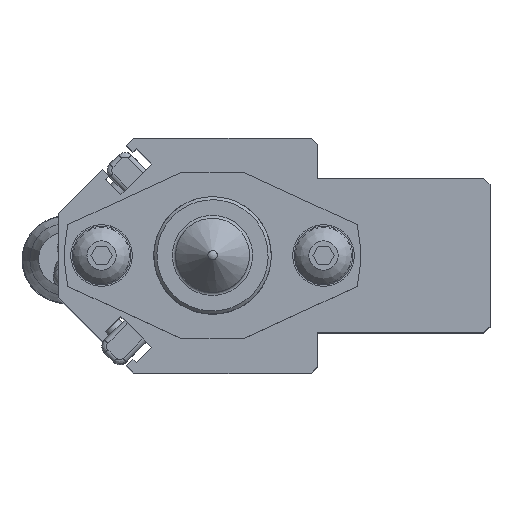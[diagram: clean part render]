
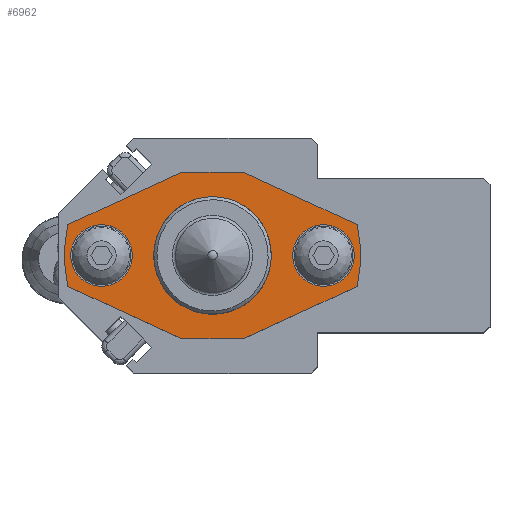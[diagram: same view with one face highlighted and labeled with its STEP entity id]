
A CAD part, top view. The second image highlights one B-rep face of the part: STEP entity #6962.
In plain terms, the highlighted planar face has unit normal (0, 0, 1).
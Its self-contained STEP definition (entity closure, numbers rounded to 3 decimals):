
#369=FACE_BOUND('',#1070,.T.);
#370=FACE_BOUND('',#1071,.T.);
#371=FACE_BOUND('',#1072,.T.);
#451=PLANE('',#7732);
#670=FACE_OUTER_BOUND('',#1069,.T.);
#1069=EDGE_LOOP('',(#4876,#4877,#4878,#4879,#4880,#4881,#4882,#4883));
#1070=EDGE_LOOP('',(#4884,#4885));
#1071=EDGE_LOOP('',(#4886,#4887));
#1072=EDGE_LOOP('',(#4888,#4889));
#1534=LINE('',#10825,#2099);
#1541=LINE('',#10844,#2106);
#1542=LINE('',#10847,#2107);
#1543=LINE('',#10848,#2108);
#1544=LINE('',#10850,#2109);
#1545=LINE('',#10851,#2110);
#2099=VECTOR('',#8614,10.);
#2106=VECTOR('',#8631,10.);
#2107=VECTOR('',#8634,10.);
#2108=VECTOR('',#8635,10.);
#2109=VECTOR('',#8636,10.);
#2110=VECTOR('',#8637,10.);
#2653=CIRCLE('',#7722,24.);
#2655=CIRCLE('',#7725,24.);
#2659=CIRCLE('',#7733,5.);
#2660=CIRCLE('',#7734,5.);
#2661=CIRCLE('',#7735,5.);
#2662=CIRCLE('',#7736,5.);
#2663=CIRCLE('',#7737,9.55);
#2664=CIRCLE('',#7738,9.55);
#3074=VERTEX_POINT('',#10806);
#3075=VERTEX_POINT('',#10808);
#3078=VERTEX_POINT('',#10815);
#3079=VERTEX_POINT('',#10817);
#3081=VERTEX_POINT('',#10823);
#3088=VERTEX_POINT('',#10842);
#3089=VERTEX_POINT('',#10846);
#3090=VERTEX_POINT('',#10849);
#3091=VERTEX_POINT('',#10852);
#3092=VERTEX_POINT('',#10853);
#3093=VERTEX_POINT('',#10856);
#3094=VERTEX_POINT('',#10857);
#3095=VERTEX_POINT('',#10860);
#3096=VERTEX_POINT('',#10861);
#3781=EDGE_CURVE('',#3075,#3074,#2653,.T.);
#3785=EDGE_CURVE('',#3079,#3078,#2655,.T.);
#3789=EDGE_CURVE('',#3074,#3081,#1534,.T.);
#3799=EDGE_CURVE('',#3078,#3088,#1541,.T.);
#3800=EDGE_CURVE('',#3081,#3089,#1542,.T.);
#3801=EDGE_CURVE('',#3089,#3079,#1543,.T.);
#3802=EDGE_CURVE('',#3088,#3090,#1544,.T.);
#3803=EDGE_CURVE('',#3090,#3075,#1545,.T.);
#3804=EDGE_CURVE('',#3091,#3092,#2659,.T.);
#3805=EDGE_CURVE('',#3092,#3091,#2660,.T.);
#3806=EDGE_CURVE('',#3093,#3094,#2661,.T.);
#3807=EDGE_CURVE('',#3094,#3093,#2662,.T.);
#3808=EDGE_CURVE('',#3095,#3096,#2663,.T.);
#3809=EDGE_CURVE('',#3096,#3095,#2664,.T.);
#4876=ORIENTED_EDGE('',*,*,#3781,.T.);
#4877=ORIENTED_EDGE('',*,*,#3789,.T.);
#4878=ORIENTED_EDGE('',*,*,#3800,.T.);
#4879=ORIENTED_EDGE('',*,*,#3801,.T.);
#4880=ORIENTED_EDGE('',*,*,#3785,.T.);
#4881=ORIENTED_EDGE('',*,*,#3799,.T.);
#4882=ORIENTED_EDGE('',*,*,#3802,.T.);
#4883=ORIENTED_EDGE('',*,*,#3803,.T.);
#4884=ORIENTED_EDGE('',*,*,#3804,.T.);
#4885=ORIENTED_EDGE('',*,*,#3805,.T.);
#4886=ORIENTED_EDGE('',*,*,#3806,.T.);
#4887=ORIENTED_EDGE('',*,*,#3807,.T.);
#4888=ORIENTED_EDGE('',*,*,#3808,.T.);
#4889=ORIENTED_EDGE('',*,*,#3809,.T.);
#6962=ADVANCED_FACE('',(#670,#369,#370,#371),#451,.T.);
#7722=AXIS2_PLACEMENT_3D('',#10809,#8599,#8600);
#7725=AXIS2_PLACEMENT_3D('',#10818,#8607,#8608);
#7732=AXIS2_PLACEMENT_3D('',#10845,#8632,#8633);
#7733=AXIS2_PLACEMENT_3D('',#10854,#8638,#8639);
#7734=AXIS2_PLACEMENT_3D('',#10855,#8640,#8641);
#7735=AXIS2_PLACEMENT_3D('',#10858,#8642,#8643);
#7736=AXIS2_PLACEMENT_3D('',#10859,#8644,#8645);
#7737=AXIS2_PLACEMENT_3D('',#10862,#8646,#8647);
#7738=AXIS2_PLACEMENT_3D('',#10863,#8648,#8649);
#8599=DIRECTION('center_axis',(0.,0.,1.));
#8600=DIRECTION('ref_axis',(0.978,-0.208,0.));
#8607=DIRECTION('center_axis',(0.,0.,1.));
#8608=DIRECTION('ref_axis',(-0.978,0.208,0.));
#8614=DIRECTION('',(0.908,-0.418,0.));
#8631=DIRECTION('',(-0.908,0.418,0.));
#8632=DIRECTION('center_axis',(0.,0.,1.));
#8633=DIRECTION('ref_axis',(1.,0.,0.));
#8634=DIRECTION('',(1.,0.,0.));
#8635=DIRECTION('',(0.908,0.418,0.));
#8636=DIRECTION('',(-1.,0.,0.));
#8637=DIRECTION('',(-0.908,-0.418,0.));
#8638=DIRECTION('center_axis',(0.,0.,-1.));
#8639=DIRECTION('ref_axis',(1.,0.,0.));
#8640=DIRECTION('center_axis',(0.,0.,-1.));
#8641=DIRECTION('ref_axis',(1.,0.,0.));
#8642=DIRECTION('center_axis',(0.,0.,-1.));
#8643=DIRECTION('ref_axis',(1.,0.,0.));
#8644=DIRECTION('center_axis',(0.,0.,-1.));
#8645=DIRECTION('ref_axis',(1.,0.,0.));
#8646=DIRECTION('center_axis',(0.,0.,-1.));
#8647=DIRECTION('ref_axis',(1.,0.,0.));
#8648=DIRECTION('center_axis',(0.,0.,-1.));
#8649=DIRECTION('ref_axis',(1.,0.,0.));
#10806=CARTESIAN_POINT('',(-23.473,-5.001,6.));
#10808=CARTESIAN_POINT('',(-23.473,5.001,6.));
#10809=CARTESIAN_POINT('Origin',(0.,0.,6.));
#10815=CARTESIAN_POINT('',(23.473,5.001,6.));
#10817=CARTESIAN_POINT('',(23.473,-5.001,6.));
#10818=CARTESIAN_POINT('Origin',(0.,0.,6.));
#10823=CARTESIAN_POINT('',(-5.,-13.5,6.));
#10825=CARTESIAN_POINT('',(-15.7,-8.578,6.));
#10842=CARTESIAN_POINT('',(5.,13.5,6.));
#10844=CARTESIAN_POINT('',(15.7,8.578,6.));
#10845=CARTESIAN_POINT('Origin',(0.,0.,6.));
#10846=CARTESIAN_POINT('',(5.,-13.5,6.));
#10847=CARTESIAN_POINT('',(25.4,-13.5,6.));
#10848=CARTESIAN_POINT('',(15.7,-8.578,6.));
#10849=CARTESIAN_POINT('',(-5.,13.5,6.));
#10850=CARTESIAN_POINT('',(-25.4,13.5,6.));
#10851=CARTESIAN_POINT('',(-15.7,8.578,6.));
#10852=CARTESIAN_POINT('',(-13.,0.,6.));
#10853=CARTESIAN_POINT('',(-23.,0.,6.));
#10854=CARTESIAN_POINT('Origin',(-18.,0.,6.));
#10855=CARTESIAN_POINT('Origin',(-18.,0.,6.));
#10856=CARTESIAN_POINT('',(23.,0.,6.));
#10857=CARTESIAN_POINT('',(13.,0.,6.));
#10858=CARTESIAN_POINT('Origin',(18.,0.,6.));
#10859=CARTESIAN_POINT('Origin',(18.,0.,6.));
#10860=CARTESIAN_POINT('',(9.55,0.,6.));
#10861=CARTESIAN_POINT('',(-9.55,0.,6.));
#10862=CARTESIAN_POINT('Origin',(0.,0.,6.));
#10863=CARTESIAN_POINT('Origin',(0.,0.,6.));
